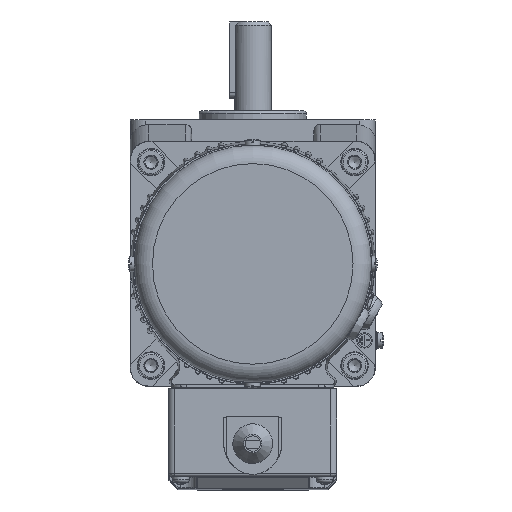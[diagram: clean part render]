
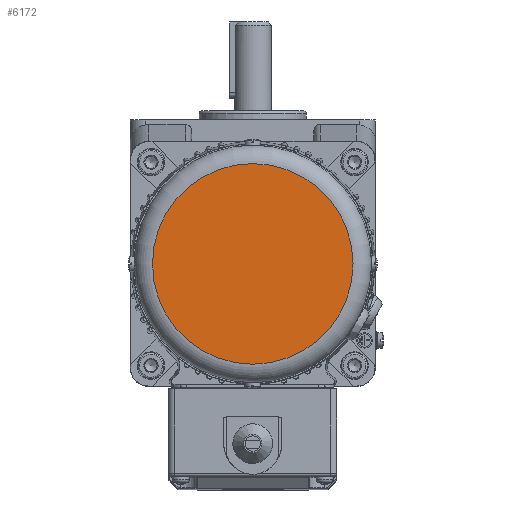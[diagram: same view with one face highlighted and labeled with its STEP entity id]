
A CAD part, left-side view. The second image highlights one B-rep face of the part: STEP entity #6172.
In plain terms, the highlighted planar face has unit normal (-1, 0, 0).
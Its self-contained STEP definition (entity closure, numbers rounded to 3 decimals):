
#6172=ADVANCED_FACE('',(#8627),#7873,.F.);
#7873=PLANE('',#27932);
#8627=FACE_OUTER_BOUND('',#10056,.T.);
#10056=EDGE_LOOP('',(#12069));
#12069=ORIENTED_EDGE('',*,*,#22622,.F.);
#20029=VERTEX_POINT('',#38061);
#22622=EDGE_CURVE('',#20029,#20029,#26636,.T.);
#26636=CIRCLE('',#27931,32.75);
#27931=AXIS2_PLACEMENT_3D('',#38060,#30754,#30755);
#27932=AXIS2_PLACEMENT_3D('',#38062,#30756,#30757);
#30754=DIRECTION('',(1.,0.,0.));
#30755=DIRECTION('',(0.,0.,-1.));
#30756=DIRECTION('',(1.,0.,0.));
#30757=DIRECTION('',(0.,0.,-1.));
#38060=CARTESIAN_POINT('',(-132.,40.,40.));
#38061=CARTESIAN_POINT('',(-132.,40.,7.25));
#38062=CARTESIAN_POINT('',(-132.,40.,40.));
